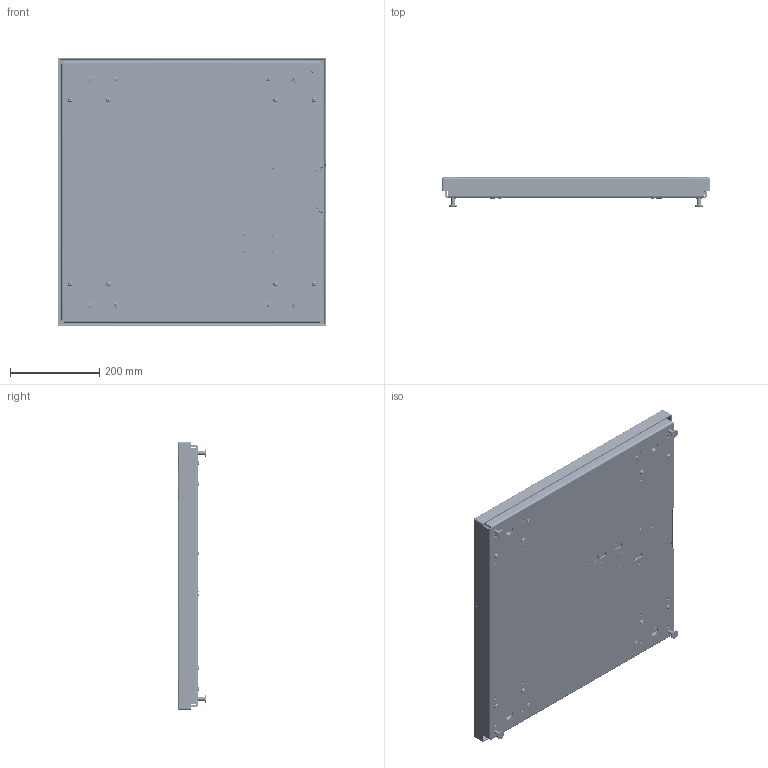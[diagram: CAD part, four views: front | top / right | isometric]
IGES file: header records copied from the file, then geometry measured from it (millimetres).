
Start section: SolidWorks IGES file using analytic representation for surfaces
Global section: file name: C:\0_Work\SolidWorks\~0_E-Scales\24x24\E-SCALE-6610-2424-130.IGS; native system: SolidWorks 2017; preprocessor: SolidWorks 2017; author: vach01; date: 190829.152539; units: millimetre
Bounding box: 600.13 x 64.1 x 600 mm (x, y, z)
Surface area: 1903694.7 mm2 (no closed solid volume)
Topology: 0 solids, 0 shells, 17896 faces, 141734 edges, 141620 vertices
Faces by surface type: bspline 14364, revolution 3532
